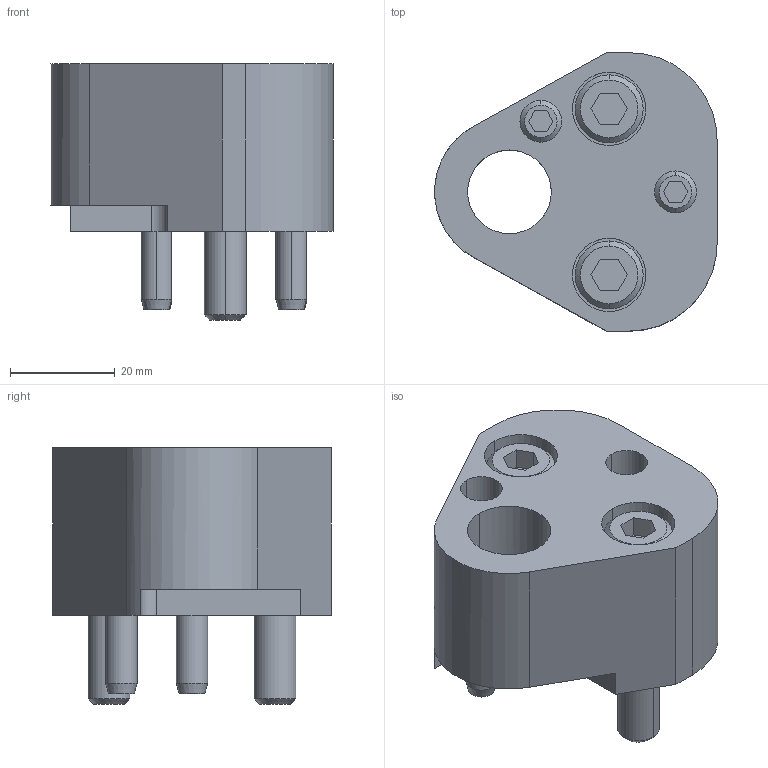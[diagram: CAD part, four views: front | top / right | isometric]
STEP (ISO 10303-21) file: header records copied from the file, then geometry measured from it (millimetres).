
FILE_DESCRIPTION(/* description */ (''),/* implementation_level */ '2;1');
FILE_NAME(/* name */ '3d_crnfr16_03657_r00.stp',/* time_stamp */ '2011-01-10T14:16:19+09:00',/* author */ ('MISUMI'),/* organization */ (''),/* preprocessor_version */ 'ST-DEVELOPER v11',/* originating_system */ 'UGS - NX 5.0',/* authorisation */ '');
FILE_SCHEMA (('CONFIG_CONTROL_DESIGN'));
Length unit declared in the file: millimetre
Products named in the file (1): 3d_crnfr16_03657_r00
Bounding box: 53.96 x 53.2 x 49 mm (x, y, z)
Volume: 59859.3 mm3; surface area: 19192.3 mm2
Topology: 7 solids, 7 shells, 136 faces, 304 edges, 195 vertices
Faces by surface type: plane 62, cylinder 48, cone 26
Entity records: 3927 total; most frequent: DIRECTION 695, CARTESIAN_POINT 695, ORIENTED_EDGE 608, EDGE_CURVE 304, AXIS2_PLACEMENT_3D 261, VERTEX_POINT 195, LINE 173, VECTOR 173
